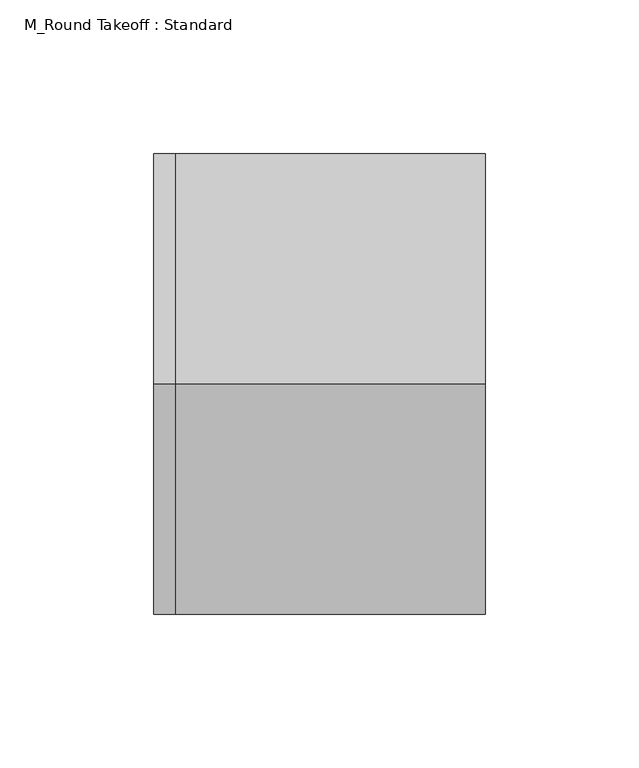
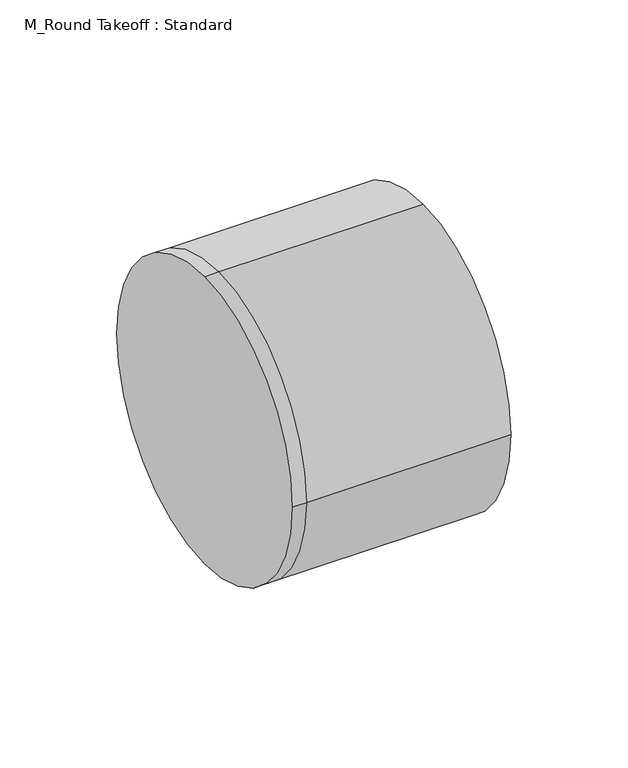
"""IFC4 building model written with IfcOpenShell, lengths in millimetres: duct fitting geometry, M_Round Takeoff : Standard."""

from ifc_helpers import new_model, si_unit, frame, origin, place, context, project, spatial, circle_curve, source, transform, mapped, element, save
from ifc_brep_helpers import plane_surface, cylinder_surface, advanced_brep


def m_round_takeoff_standard_aef5fa80(model_context):
    return source(origin(), model_context, "Body", "AdvancedBrep", [
        advanced_brep(
        [(-7.0403197, 0.0, 75.0), (-7.0403197, 75.0, 0.0), (-7.0403197, 0.0, -75.0), (-7.0403197, -75.0, 0.0), (0.0, 0.0, 75.0), (0.0, 75.0, 0.0), (0.0, 0.0, -75.0), (0.0, -75.0, 0.0), (100.9443198, 0.0, 75.0), (100.9443198, -75.0, 0.0), (100.9443198, 0.0, -75.0), (100.9443198, 75.0, 0.0)],
        [
            (0, 1, circle_curve(frame((-7.0403197, 0.0, 0.0), z_axis=(-1.0, 0.0, 0.0), x_axis=(0.0, 1.0, 0.0)), 75.0)),
            (1, 2, circle_curve(frame((-7.0403197, 0.0, 0.0), z_axis=(-1.0, 0.0, 0.0), x_axis=(0.0, 1.0, 0.0)), 75.0)),
            (2, 3, circle_curve(frame((-7.0403197, 0.0, 0.0), z_axis=(-1.0, 0.0, 0.0), x_axis=(0.0, 1.0, 0.0)), 75.0)),
            (3, 0, circle_curve(frame((-7.0403197, 0.0, 0.0), z_axis=(-1.0, 0.0, 0.0), x_axis=(0.0, 1.0, 0.0)), 75.0)),
            (0, 4),
            (4, 5, circle_curve(frame((0.0, 0.0, 0.0), z_axis=(-1.0, 0.0, 0.0), x_axis=(0.0, 1.0, 0.0)), 75.0)),
            (5, 1),
            (5, 6, circle_curve(frame((0.0, 0.0, 0.0), z_axis=(-1.0, 0.0, 0.0), x_axis=(0.0, 1.0, 0.0)), 75.0)),
            (6, 2),
            (6, 7, circle_curve(frame((0.0, 0.0, 0.0), z_axis=(-1.0, 0.0, 0.0), x_axis=(0.0, 1.0, 0.0)), 75.0)),
            (7, 3),
            (7, 4, circle_curve(frame((0.0, 0.0, 0.0), z_axis=(-1.0, 0.0, 0.0), x_axis=(0.0, 1.0, 0.0)), 75.0)),
            (8, 9, circle_curve(frame((100.9443198, 0.0, 0.0), z_axis=(1.0, 0.0, 0.0), x_axis=(0.0, 1.0, 0.0)), 75.0)),
            (9, 10, circle_curve(frame((100.9443198, 0.0, 0.0), z_axis=(1.0, 0.0, 0.0), x_axis=(0.0, 1.0, 0.0)), 75.0)),
            (10, 11, circle_curve(frame((100.9443198, 0.0, 0.0), z_axis=(1.0, 0.0, 0.0), x_axis=(0.0, 1.0, 0.0)), 75.0)),
            (11, 8, circle_curve(frame((100.9443198, 0.0, 0.0), z_axis=(1.0, 0.0, 0.0), x_axis=(0.0, 1.0, 0.0)), 75.0)),
            (11, 5),
            (4, 8),
            (10, 6),
            (9, 7),
        ],
        [
            plane_surface(frame((-7.0403197, 0.0, 0.0), z_axis=(-1.0, 0.0, 0.0), x_axis=(0.0, 0.0, 1.0))),
            cylinder_surface(frame((-7.0403197, 0.0, 0.0), z_axis=(-1.0, 0.0, 0.0), x_axis=(0.0, 1.0, 0.0)), 75.0),
            plane_surface(frame((100.9443198, 0.0, 0.0), z_axis=(1.0, 0.0, 0.0), x_axis=(0.0, 0.0, 1.0))),
            cylinder_surface(frame((0.0, 0.0, 0.0), z_axis=(-1.0, 0.0, 0.0), x_axis=(0.0, 1.0, 0.0)), 75.0),
        ],
        [
            (0, [[1, 2, 3, 4]]),
            (1, [[-1, 5, 6, 7]]),
            (1, [[-2, -7, 8, 9]]),
            (1, [[-3, -9, 10, 11]]),
            (1, [[-4, -11, 12, -5]]),
            (2, [[13, 14, 15, 16]]),
            (3, [[-16, 17, -6, 18]]),
            (3, [[-15, 19, -8, -17]]),
            (3, [[-14, 20, -10, -19]]),
            (3, [[-13, -18, -12, -20]]),
        ],
    ),
        advanced_brep(
        [(100.9443198, 0.0, 75.0), (100.9443198, -75.0, 0.0), (100.9443198, 0.0, -75.0), (100.9443198, 75.0, 0.0), (0.0, 75.0, 0.0), (0.0, 0.0, 75.0), (0.0, 0.0, -75.0), (0.0, -75.0, 0.0), (-7.0403197, 0.0, 75.0), (-7.0403197, 75.0, 0.0), (-7.0403197, 0.0, -75.0), (-7.0403197, -75.0, 0.0)],
        [
            (0, 1, circle_curve(frame((100.9443198, 0.0, 0.0), z_axis=(1.0, 0.0, 0.0), x_axis=(0.0, 1.0, 0.0)), 75.0)),
            (1, 2, circle_curve(frame((100.9443198, 0.0, 0.0), z_axis=(1.0, 0.0, 0.0), x_axis=(0.0, 1.0, 0.0)), 75.0)),
            (2, 3, circle_curve(frame((100.9443198, 0.0, 0.0), z_axis=(1.0, 0.0, 0.0), x_axis=(0.0, 1.0, 0.0)), 75.0)),
            (3, 0, circle_curve(frame((100.9443198, 0.0, 0.0), z_axis=(1.0, 0.0, 0.0), x_axis=(0.0, 1.0, 0.0)), 75.0)),
            (3, 4),
            (4, 5, circle_curve(frame((0.0, 0.0, 0.0), z_axis=(1.0, 0.0, 0.0), x_axis=(0.0, 1.0, 0.0)), 75.0)),
            (5, 0),
            (2, 6),
            (6, 4, circle_curve(frame((0.0, 0.0, 0.0), z_axis=(1.0, 0.0, 0.0), x_axis=(0.0, 1.0, 0.0)), 75.0)),
            (1, 7),
            (7, 6, circle_curve(frame((0.0, 0.0, 0.0), z_axis=(1.0, 0.0, 0.0), x_axis=(0.0, 1.0, 0.0)), 75.0)),
            (5, 7, circle_curve(frame((0.0, 0.0, 0.0), z_axis=(1.0, 0.0, 0.0), x_axis=(0.0, 1.0, 0.0)), 75.0)),
            (8, 9, circle_curve(frame((-7.0403197, 0.0, 0.0), z_axis=(-1.0, 0.0, 0.0), x_axis=(0.0, 1.0, 0.0)), 75.0)),
            (9, 10, circle_curve(frame((-7.0403197, 0.0, 0.0), z_axis=(-1.0, 0.0, 0.0), x_axis=(0.0, 1.0, 0.0)), 75.0)),
            (10, 11, circle_curve(frame((-7.0403197, 0.0, 0.0), z_axis=(-1.0, 0.0, 0.0), x_axis=(0.0, 1.0, 0.0)), 75.0)),
            (11, 8, circle_curve(frame((-7.0403197, 0.0, 0.0), z_axis=(-1.0, 0.0, 0.0), x_axis=(0.0, 1.0, 0.0)), 75.0)),
            (8, 5),
            (4, 9),
            (6, 10),
            (7, 11),
        ],
        [
            plane_surface(frame((100.9443198, 0.0, 0.0), z_axis=(1.0, 0.0, 0.0), x_axis=(0.0, 0.0, 1.0))),
            cylinder_surface(frame((0.0, 0.0, 0.0), z_axis=(-1.0, 0.0, 0.0), x_axis=(0.0, 1.0, 0.0)), 75.0),
            plane_surface(frame((-7.0403197, 0.0, 0.0), z_axis=(-1.0, 0.0, 0.0), x_axis=(0.0, 0.0, 1.0))),
            cylinder_surface(frame((-7.0403197, 0.0, 0.0), z_axis=(-1.0, 0.0, 0.0), x_axis=(0.0, 1.0, 0.0)), 75.0),
        ],
        [
            (0, [[1, 2, 3, 4]]),
            (1, [[-4, 5, 6, 7]]),
            (1, [[-3, 8, 9, -5]]),
            (1, [[-2, 10, 11, -8]]),
            (1, [[-1, -7, 12, -10]]),
            (2, [[13, 14, 15, 16]]),
            (3, [[-13, 17, -6, 18]]),
            (3, [[-14, -18, -9, 19]]),
            (3, [[-15, -19, -11, 20]]),
            (3, [[-16, -20, -12, -17]]),
        ],
    ),
        advanced_brep(
        [(-7.0403197, 0.0, 75.0), (-7.0403197, 75.0, 0.0), (-7.0403197, 0.0, -75.0), (-7.0403197, -75.0, 0.0), (0.0, 0.0, 75.0), (0.0, 75.0, 0.0), (0.0, 0.0, -75.0), (0.0, -75.0, 0.0), (100.9443198, 0.0, 75.0), (100.9443198, -75.0, 0.0), (100.9443198, 0.0, -75.0), (100.9443198, 75.0, 0.0)],
        [
            (0, 1, circle_curve(frame((-7.0403197, 0.0, 0.0), z_axis=(-1.0, 0.0, 0.0), x_axis=(0.0, 1.0, 0.0)), 75.0)),
            (1, 2, circle_curve(frame((-7.0403197, 0.0, 0.0), z_axis=(-1.0, 0.0, 0.0), x_axis=(0.0, 1.0, 0.0)), 75.0)),
            (2, 3, circle_curve(frame((-7.0403197, 0.0, 0.0), z_axis=(-1.0, 0.0, 0.0), x_axis=(0.0, 1.0, 0.0)), 75.0)),
            (3, 0, circle_curve(frame((-7.0403197, 0.0, 0.0), z_axis=(-1.0, 0.0, 0.0), x_axis=(0.0, 1.0, 0.0)), 75.0)),
            (0, 4),
            (4, 5, circle_curve(frame((0.0, 0.0, 0.0), z_axis=(-1.0, 0.0, 0.0), x_axis=(0.0, 1.0, 0.0)), 75.0)),
            (5, 1),
            (5, 6, circle_curve(frame((0.0, 0.0, 0.0), z_axis=(-1.0, 0.0, 0.0), x_axis=(0.0, 1.0, 0.0)), 75.0)),
            (6, 2),
            (6, 7, circle_curve(frame((0.0, 0.0, 0.0), z_axis=(-1.0, 0.0, 0.0), x_axis=(0.0, 1.0, 0.0)), 75.0)),
            (7, 3),
            (7, 4, circle_curve(frame((0.0, 0.0, 0.0), z_axis=(-1.0, 0.0, 0.0), x_axis=(0.0, 1.0, 0.0)), 75.0)),
            (8, 9, circle_curve(frame((100.9443198, 0.0, 0.0), z_axis=(1.0, 0.0, 0.0), x_axis=(0.0, 1.0, 0.0)), 75.0)),
            (9, 10, circle_curve(frame((100.9443198, 0.0, 0.0), z_axis=(1.0, 0.0, 0.0), x_axis=(0.0, 1.0, 0.0)), 75.0)),
            (10, 11, circle_curve(frame((100.9443198, 0.0, 0.0), z_axis=(1.0, 0.0, 0.0), x_axis=(0.0, 1.0, 0.0)), 75.0)),
            (11, 8, circle_curve(frame((100.9443198, 0.0, 0.0), z_axis=(1.0, 0.0, 0.0), x_axis=(0.0, 1.0, 0.0)), 75.0)),
            (11, 5),
            (4, 8),
            (10, 6),
            (9, 7),
        ],
        [
            plane_surface(frame((-7.0403197, 0.0, 0.0), z_axis=(-1.0, 0.0, 0.0), x_axis=(0.0, 0.0, 1.0))),
            cylinder_surface(frame((-7.0403197, 0.0, 0.0), z_axis=(-1.0, 0.0, 0.0), x_axis=(0.0, 1.0, 0.0)), 75.0),
            plane_surface(frame((100.9443198, 0.0, 0.0), z_axis=(1.0, 0.0, 0.0), x_axis=(0.0, 0.0, 1.0))),
            cylinder_surface(frame((0.0, 0.0, 0.0), z_axis=(-1.0, 0.0, 0.0), x_axis=(0.0, 1.0, 0.0)), 75.0),
        ],
        [
            (0, [[1, 2, 3, 4]]),
            (1, [[-1, 5, 6, 7]]),
            (1, [[-2, -7, 8, 9]]),
            (1, [[-3, -9, 10, 11]]),
            (1, [[-4, -11, 12, -5]]),
            (2, [[13, 14, 15, 16]]),
            (3, [[-16, 17, -6, 18]]),
            (3, [[-15, 19, -8, -17]]),
            (3, [[-14, 20, -10, -19]]),
            (3, [[-13, -18, -12, -20]]),
        ],
    ),
    ])


if __name__ == "__main__":
    model = new_model("IFC4")
    model_context = context("Model", 3, world=origin())
    ifc_project = project(units=[si_unit("LENGTHUNIT", "METRE", prefix="MILLI")], contexts=[model_context])
    site = spatial("IfcSite", under=ifc_project)
    building = spatial("IfcBuilding", under=site)
    placement = place(None, origin())
    m_round_takeoff_standard_shape = m_round_takeoff_standard_aef5fa80(model_context)
    element("IfcDuctFitting", 1, ObjectType="M_Round Takeoff : Standard", at=placement, inside=building, context=model_context, shape_type="MappedRepresentation", body=[
        mapped(m_round_takeoff_standard_shape, transform((0.0, 0.0, 0.0), x_axis=(1.0, 0.0, 0.0), y_axis=(0.0, 1.0, 0.0), z_axis=(0.0, 0.0, 1.0))),
    ])
    save(model, "model.ifc")
